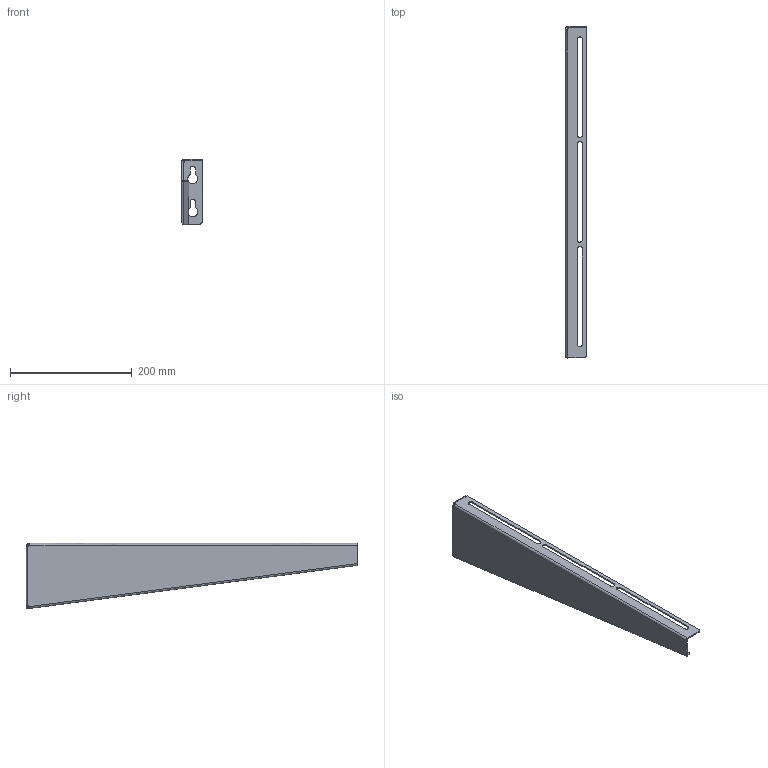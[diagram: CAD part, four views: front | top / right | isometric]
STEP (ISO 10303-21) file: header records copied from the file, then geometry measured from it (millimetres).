
FILE_DESCRIPTION(/* description */ (''),/* implementation_level */ '2;1');
FILE_NAME(/* name */ 'NZMU500_part',/* time_stamp */ '2022-09-01T12:31:27+02:00',/* author */ (''),/* organization */ (''),/* preprocessor_version */ 'ST-DEVELOPER v16.5',/* originating_system */ '',/* authorisation */ '');
FILE_SCHEMA (('CONFIG_CONTROL_DESIGN'));
Length unit declared in the file: millimetre
Products named in the file (1): Document
Bounding box: 33 x 545.19 x 107.2 mm (x, y, z)
Volume: 116370.2 mm3; surface area: 121481.2 mm2
Topology: 1 solids, 1 shells, 61 faces, 153 edges, 94 vertices
Faces by surface type: plane 30, cylinder 19, bspline 12
Entity records: 1916 total; most frequent: CARTESIAN_POINT 859, ORIENTED_EDGE 306, EDGE_CURVE 153, VERTEX_POINT 94, EDGE_LOOP 71, ADVANCED_FACE 61, FACE_OUTER_BOUND 61, B_SPLINE_CURVE_WITH_KNOTS 56
